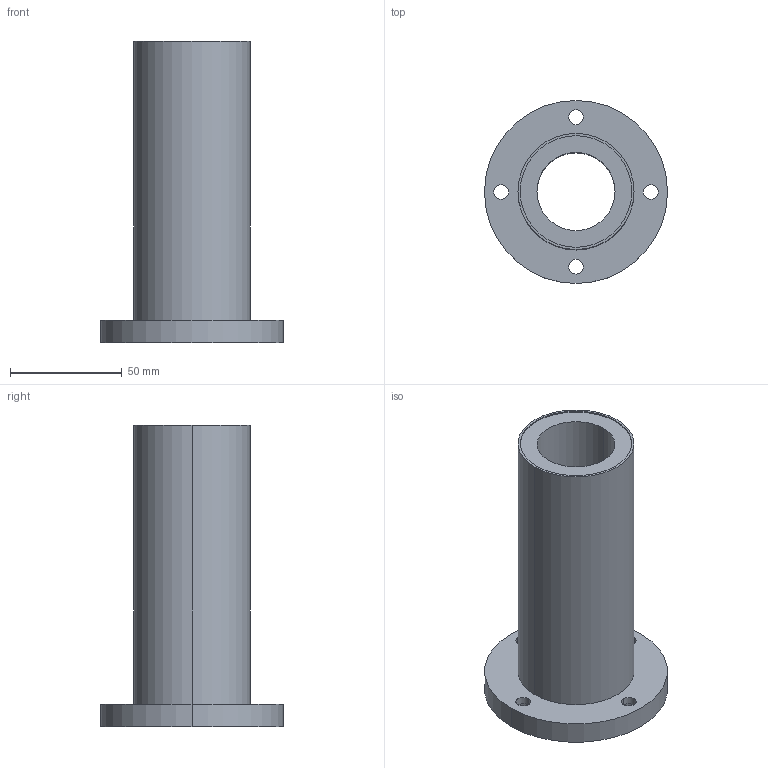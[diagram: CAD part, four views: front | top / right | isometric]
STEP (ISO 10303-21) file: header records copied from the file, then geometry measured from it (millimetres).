
FILE_DESCRIPTION((''),'2;1');
FILE_NAME('C:\Documents and Settings\ｿﾀﾀ蠑ｷ1\ｹﾙﾅﾁ ﾈｭｸ饅\ｺﾎﾇｰﾆﾄﾀﾏ\ﾁｦﾇｰ\LMF__LUU\LMF35LUU.stp','2005-06-15T09:43:52',('ｿﾀﾀ蠑ｷ1'),(''),'Autodesk Inventor 9','Autodesk Inventor 9','');
FILE_SCHEMA(('AUTOMOTIVE_DESIGN { 1 0 10303 214 1 1 1 1 }'));
Length unit declared in the file: millimetre
Products named in the file (1): LMF__
Bounding box: 82 x 82 x 135 mm (x, y, z)
Volume: 184290.1 mm3; surface area: 47447.1 mm2
Topology: 1 solids, 1 shells, 38 faces, 84 edges, 56 vertices
Faces by surface type: cylinder 28, plane 10
Entity records: 1127 total; most frequent: DIRECTION 218, CARTESIAN_POINT 179, ORIENTED_EDGE 168, AXIS2_PLACEMENT_3D 95, EDGE_CURVE 84, VERTEX_POINT 56, CIRCLE 56, EDGE_LOOP 56
